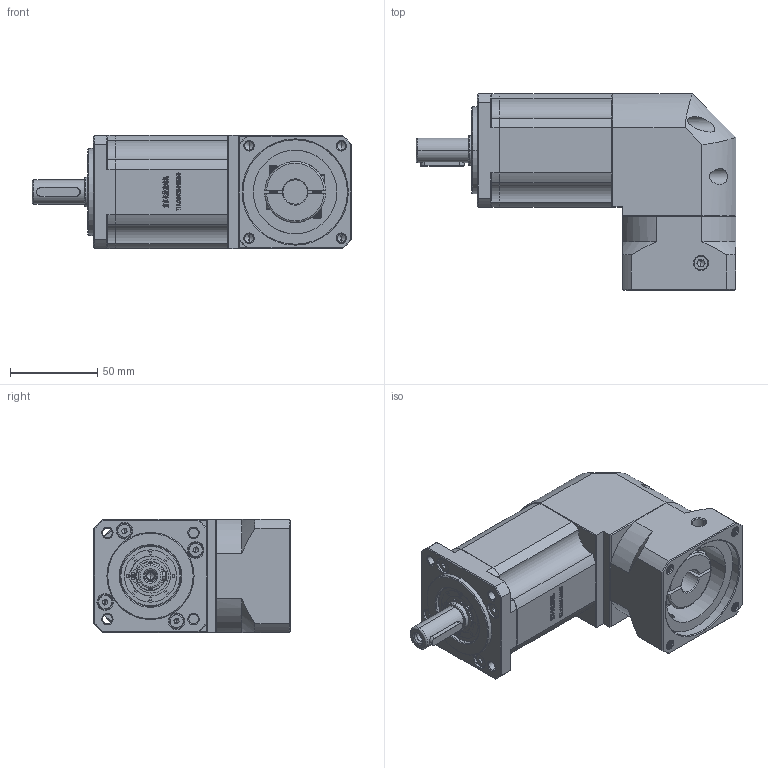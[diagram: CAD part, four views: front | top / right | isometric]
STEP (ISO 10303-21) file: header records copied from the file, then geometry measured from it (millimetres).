
FILE_DESCRIPTION (( 'STEP AP214' ), '1' );
FILE_NAME ('ZBR60-D14-L3-14-60-75-M6.STEP', '2022-04-19T09:04:57', ( '' ), ( 'Microsoft' ), 'SwSTEP 2.0', 'SolidWorks 2016', '' );
FILE_SCHEMA (( 'AUTOMOTIVE_DESIGN' ));
Length unit declared in the file: millimetre
Products named in the file (1): ZBR60-D14-L3-14-60-75-M6
Bounding box: 183.5 x 112.7 x 65 mm (x, y, z)
Volume: 660635.7 mm3; surface area: 87459.5 mm2
Topology: 5 solids, 5 shells, 2839 faces, 7701 edges, 4998 vertices
Faces by surface type: plane 1472, bspline 579, cylinder 428, cone 326, torus 34
Entity records: 154669 total; most frequent: CARTESIAN_POINT 56149, ORIENTED_EDGE 15342, DIRECTION 11725, EDGE_CURVE 7671, LINE 5065, VECTOR 5065, VERTEX_POINT 4998, AXIS2_PLACEMENT_3D 3330
